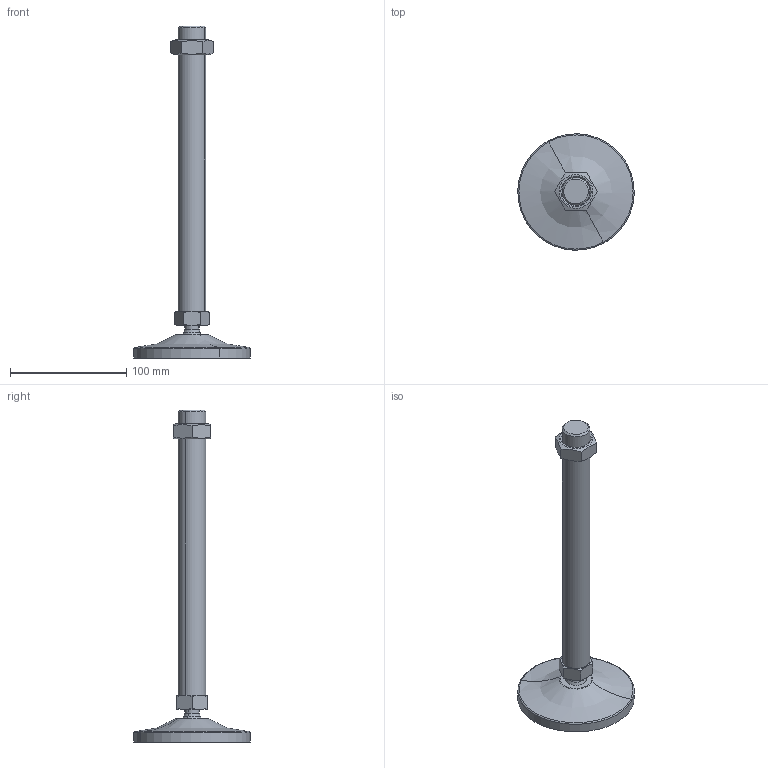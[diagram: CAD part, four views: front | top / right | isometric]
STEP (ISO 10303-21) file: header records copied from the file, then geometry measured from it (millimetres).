
FILE_DESCRIPTION(('CATIA V5 STEP Exchange'),'2;1');
FILE_NAME('C:\Users\ALI OZGUN\Desktop\alhan\saplama2\560102429.stp','2017-09-21T10:35:26+00:00',('none'),('none'),'CATIA Version 5 Release 21 GA (IN-10)','CATIA V5 STEP AP203','none');
FILE_SCHEMA(('CONFIG_CONTROL_DESIGN'));
Length unit declared in the file: millimetre
Products named in the file (1): 560102429
Bounding box: 99.97 x 99.97 x 285 mm (x, y, z)
Volume: 187436.4 mm3; surface area: 45006.9 mm2
Topology: 3 solids, 3 shells, 72 faces, 160 edges, 95 vertices
Faces by surface type: cone 28, plane 20, cylinder 14, torus 4, revolution 4, sphere 2
Entity records: 2121 total; most frequent: CARTESIAN_POINT 723, ORIENTED_EDGE 316, DIRECTION 191, EDGE_CURVE 158, AXIS2_PLACEMENT_3D 105, VERTEX_POINT 95, EDGE_LOOP 79, ADVANCED_FACE 72
